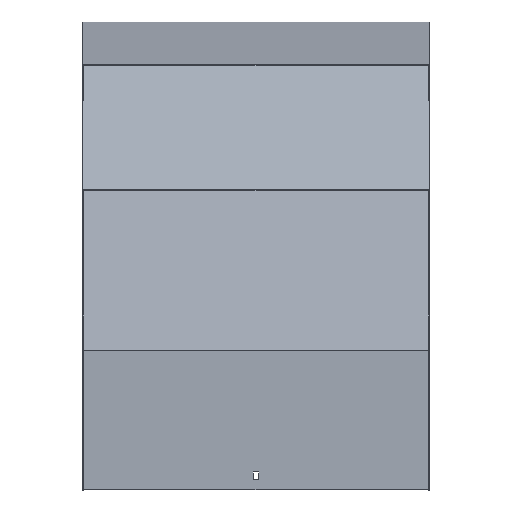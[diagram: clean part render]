
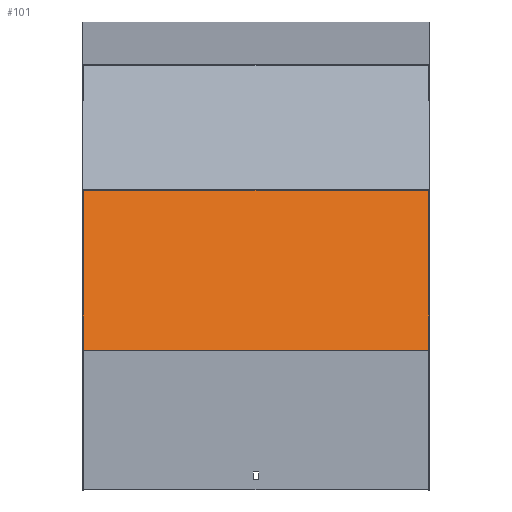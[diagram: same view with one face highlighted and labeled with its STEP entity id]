
A CAD part, top view. The second image highlights one B-rep face of the part: STEP entity #101.
In plain terms, the highlighted planar face has unit normal (0, 0.259, 0.966).
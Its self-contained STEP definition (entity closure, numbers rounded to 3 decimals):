
#12 = CARTESIAN_POINT ( 'NONE',  ( 201.5, -180.591, 495.901 ) ) ;
#13 = EDGE_LOOP ( 'NONE', ( #305, #44, #606, #612 ) ) ;
#30 = EDGE_CURVE ( 'NONE', #179, #729, #219, .T. ) ;
#44 = ORIENTED_EDGE ( 'NONE', *, *, #472, .F. ) ;
#101 = ADVANCED_FACE ( 'NONE', ( #826 ), #981, .F. ) ;
#120 = LINE ( 'NONE', #390, #496 ) ;
#127 = CARTESIAN_POINT ( 'NONE',  ( -201.5, -175.415, 494.514 ) ) ;
#179 = VERTEX_POINT ( 'NONE', #1093 ) ;
#219 = LINE ( 'NONE', #816, #915 ) ;
#224 = DIRECTION ( 'NONE',  ( 0., 0.966, -0.259 ) ) ;
#233 = EDGE_CURVE ( 'NONE', #729, #440, #402, .T. ) ;
#250 = LINE ( 'NONE', #12, #983 ) ;
#276 = DIRECTION ( 'NONE',  ( -1., 0., 0. ) ) ;
#277 = EDGE_CURVE ( 'NONE', #179, #428, #250, .T. ) ;
#305 = ORIENTED_EDGE ( 'NONE', *, *, #233, .T. ) ;
#390 = CARTESIAN_POINT ( 'NONE',  ( 201.5, -361.831, 544.464 ) ) ;
#402 = LINE ( 'NONE', #752, #1057 ) ;
#428 = VERTEX_POINT ( 'NONE', #642 ) ;
#440 = VERTEX_POINT ( 'NONE', #824 ) ;
#472 = EDGE_CURVE ( 'NONE', #428, #440, #120, .T. ) ;
#496 = VECTOR ( 'NONE', #276, 1000. ) ;
#606 = ORIENTED_EDGE ( 'NONE', *, *, #277, .F. ) ;
#612 = ORIENTED_EDGE ( 'NONE', *, *, #30, .T. ) ;
#642 = CARTESIAN_POINT ( 'NONE',  ( 201.5, -361.831, 544.464 ) ) ;
#655 = CARTESIAN_POINT ( 'NONE',  ( 201.5, -180.591, 495.901 ) ) ;
#671 = DIRECTION ( 'NONE',  ( 0., -0.966, 0.259 ) ) ;
#707 = DIRECTION ( 'NONE',  ( 0., -0.966, 0.259 ) ) ;
#729 = VERTEX_POINT ( 'NONE', #127 ) ;
#752 = CARTESIAN_POINT ( 'NONE',  ( -201.5, -180.591, 495.901 ) ) ;
#783 = AXIS2_PLACEMENT_3D ( 'NONE', #655, #1001, #224 ) ;
#816 = CARTESIAN_POINT ( 'NONE',  ( 201.5, -175.415, 494.514 ) ) ;
#824 = CARTESIAN_POINT ( 'NONE',  ( -201.5, -361.831, 544.464 ) ) ;
#826 = FACE_OUTER_BOUND ( 'NONE', #13, .T. ) ;
#915 = VECTOR ( 'NONE', #1082, 1000. ) ;
#981 = PLANE ( 'NONE',  #783 ) ;
#983 = VECTOR ( 'NONE', #707, 1000. ) ;
#1001 = DIRECTION ( 'NONE',  ( 0., -0.259, -0.966 ) ) ;
#1057 = VECTOR ( 'NONE', #671, 1000. ) ;
#1082 = DIRECTION ( 'NONE',  ( -1., 0., 0. ) ) ;
#1093 = CARTESIAN_POINT ( 'NONE',  ( 201.5, -175.415, 494.514 ) ) ;
